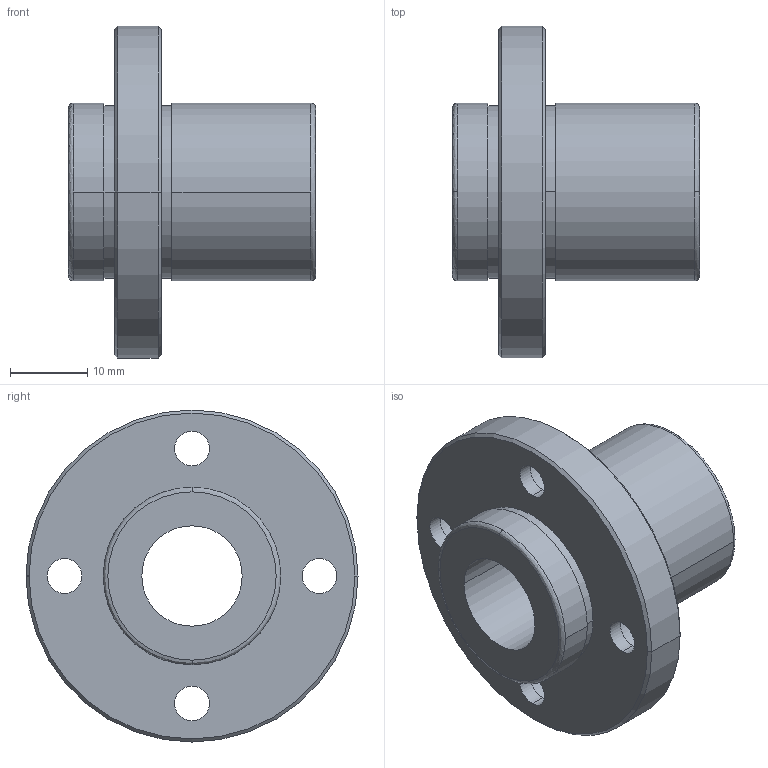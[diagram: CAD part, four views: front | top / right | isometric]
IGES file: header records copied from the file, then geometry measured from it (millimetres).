
Start section: 3D InterOp IGES (Version 21 0 1), Spatial Corp. Copyright (c) 1999-2007.
Global section: file name: NFID-13VUU.igs; native system: Spatial Corp.; preprocessor: 3D InterOp GENERIC/IGES 3.0; author: Noname; organization: Noname; date: 20220308.111912; units: millimetre
Bounding box: 32 x 43 x 43 mm (x, y, z)
Surface area: 6993.9 mm2 (no closed solid volume)
Topology: 0 solids, 0 shells, 46 faces, 208 edges, 208 vertices
Faces by surface type: revolution 36, extrusion 10
